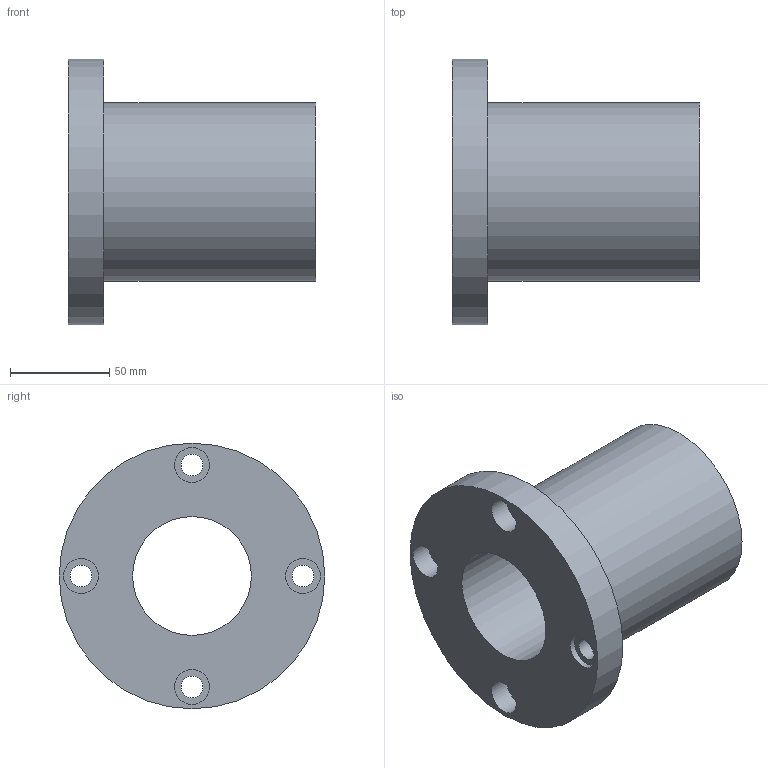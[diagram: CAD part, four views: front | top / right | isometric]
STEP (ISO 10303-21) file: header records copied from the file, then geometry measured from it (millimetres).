
FILE_DESCRIPTION( ( 'STEP AP203' ), '1' );
FILE_NAME( 'p:/temp/worker_7/temp/exporttempdir_3240_305_zhozc/format_0/LMEF60UU.stp', '2020-05-07T03:21:20', ( 'License CC BY-ND 4.0' ), ( 'CADENAS' ), ' ', 'PARTsolutions', ' ' );
FILE_SCHEMA( ( 'CONFIG_CONTROL_DESIGN' ) );
Length unit declared in the file: millimetre
Products named in the file (1): _LMEF60UU
Bounding box: 125 x 134 x 134 mm (x, y, z)
Volume: 569114.9 mm3; surface area: 86396.2 mm2
Topology: 1 solids, 1 shells, 18 faces, 34 edges, 23 vertices
Faces by surface type: cylinder 11, plane 7
Full cylindrical faces by diameter (mm): 11 x4, 17.5 x4, 60 x1, 90 x1, 134 x1
Entity records: 468 total; most frequent: DIRECTION 82, CARTESIAN_POINT 63, EDGE_LOOP 44, ORIENTED_EDGE 44, AXIS2_PLACEMENT_3D 41, FACE_OUTER_BOUND 29, EDGE_CURVE 22, VERTEX_POINT 22
